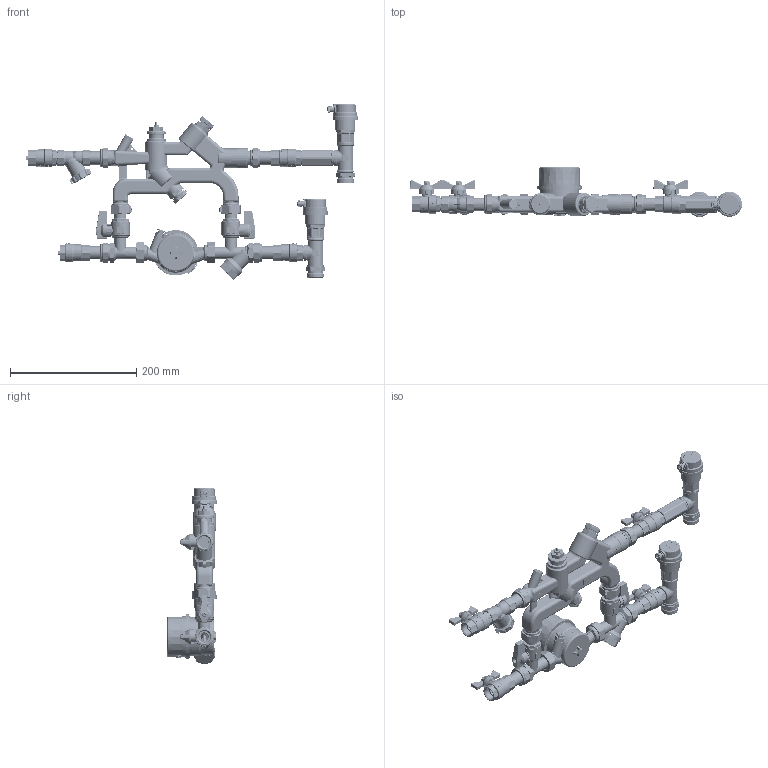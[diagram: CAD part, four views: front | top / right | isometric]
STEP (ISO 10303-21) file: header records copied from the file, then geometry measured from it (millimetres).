
FILE_DESCRIPTION(('TFLEX Exchange Step'),'2;1');
FILE_NAME('VT.CM.06RS.R.RA.stp', '2023-10-24T20:03:49+03:00',('denis'),('Unknown organisation'),'TFLEX Exchange 2023.0','T-FLEX CAD','Unknown authorisation');
FILE_SCHEMA( ('AUTOMOTIVE_DESIGN { 1 0 10303 214 1 1 1 1 }') );
Length unit declared in the file: millimetre
Products named in the file (1): VT.CM.06RS.R.RA
Bounding box: 525.53 x 79.2 x 277.67 mm (x, y, z)
Volume: 980281 mm3; surface area: 361452 mm2
Topology: 95 solids, 97 shells, 14152 faces, 36707 edges, 23318 vertices
Faces by surface type: plane 4451, cylinder 4223, bspline 3649, torus 1162, cone 436, sphere 231
Full cylindrical faces by diameter (mm): 1.5 x3, 2 x5, 2.1 x3, 2.3 x2, 3 x1, 3.2 x1, 3.464 x2, 4 x3, 4.05 x2, 5 x7, 5.5 x3, 5.6 x3, 6 x9, 7.953 x2, 8 x7, 8.5 x3, 8.9 x4, 8.917 x2, 9 x9, 9.332 x2, 10 x4, 11 x2, 11.3 x1, 11.5 x1, 12 x7, 12.5 x4, 13 x1, 13.239 x1, 13.5 x7, 14 x5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
Entity records: 620308 total; most frequent: CARTESIAN_POINT 313486, ORIENTED_EDGE 73142, DIRECTION 47952, EDGE_CURVE 36571, VERTEX_POINT 23310, AXIS2_PLACEMENT_3D 16858, B_SPLINE_CURVE_WITH_KNOTS 15360, EDGE_LOOP 15009
